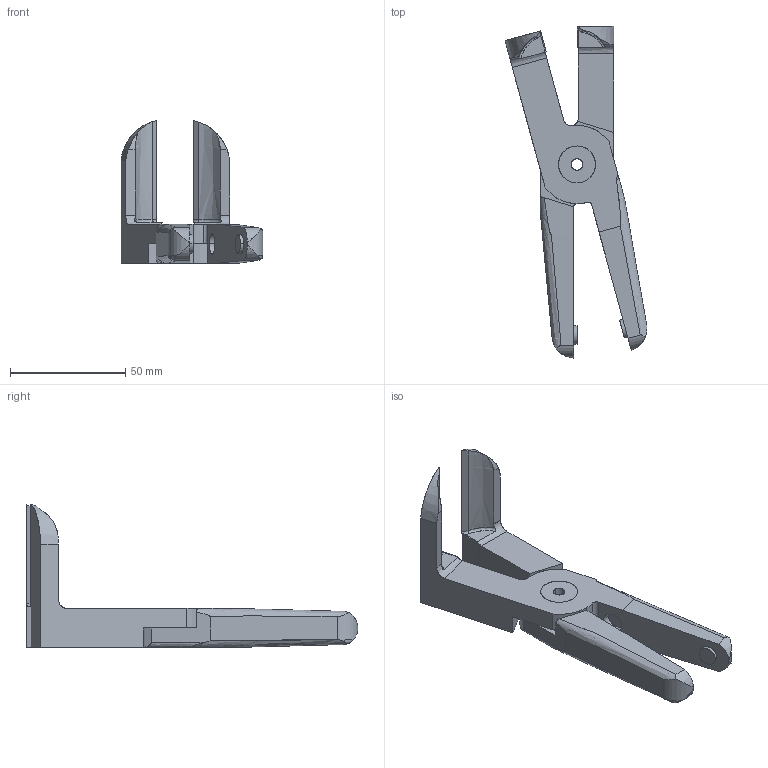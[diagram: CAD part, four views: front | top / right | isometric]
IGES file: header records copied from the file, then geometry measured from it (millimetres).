
Start section: SolidWorks IGES file using analytic representation for surfaces
Global section: file name: P:\DRAWINGS\SALES DWG FILE\Format (IGIS) 3D\N30AL525.IGS; native system: SolidWorks 2007; preprocessor: SolidWorks 2007; author: larry; date: 080108.160055; units: millimetre
Bounding box: 61.6 x 144 x 62 mm (x, y, z)
Surface area: 23391.2 mm2 (no closed solid volume)
Topology: 0 solids, 0 shells, 100 faces, 1401 edges, 1401 vertices
Faces by surface type: revolution 50, bspline 50
